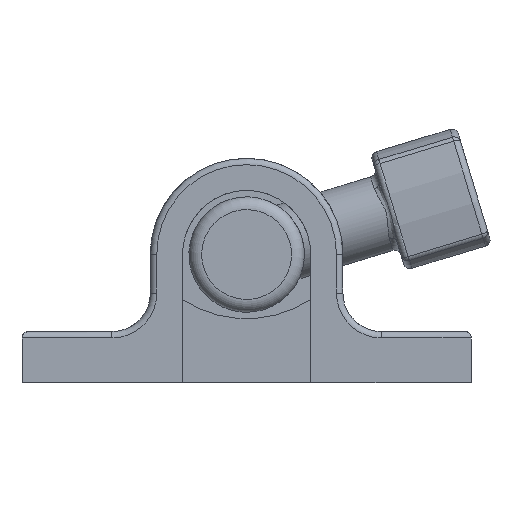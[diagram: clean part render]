
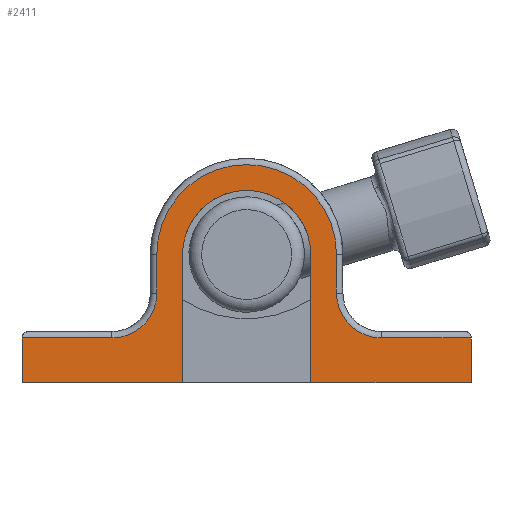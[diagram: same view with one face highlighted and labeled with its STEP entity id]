
A CAD part, left-side view. The second image highlights one B-rep face of the part: STEP entity #2411.
In plain terms, the highlighted planar face has unit normal (-1, 0, 0) as drawn and (0, 0, 1) by its records, which use the part's own axes.
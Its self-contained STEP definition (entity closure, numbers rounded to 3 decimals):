
#126=PLANE('',#2642);
#242=FACE_OUTER_BOUND('',#407,.T.);
#407=EDGE_LOOP('',(#1875,#1876,#1877,#1878,#1879,#1880,#1881,#1882,#1883,
#1884,#1885,#1886,#1887,#1888));
#539=LINE('',#3837,#693);
#565=LINE('',#3977,#719);
#566=LINE('',#3988,#720);
#568=LINE('',#3998,#722);
#569=LINE('',#4006,#723);
#576=LINE('',#4019,#730);
#586=LINE('',#4113,#740);
#588=LINE('',#4134,#742);
#590=LINE('',#4138,#744);
#591=LINE('',#4139,#745);
#693=VECTOR('',#2947,10.);
#719=VECTOR('',#3059,7.);
#720=VECTOR('',#3072,3.);
#722=VECTOR('',#3086,3.);
#723=VECTOR('',#3097,7.);
#730=VECTOR('',#3108,3.5);
#740=VECTOR('',#3150,12.5);
#742=VECTOR('',#3178,10.);
#744=VECTOR('',#3182,3.5);
#745=VECTOR('',#3183,12.5);
#868=CIRCLE('',#2596,3.5);
#872=CIRCLE('',#2602,7.);
#876=CIRCLE('',#2608,3.5);
#890=CIRCLE('',#2640,5.);
#1037=VERTEX_POINT('',#3834);
#1038=VERTEX_POINT('',#3836);
#1058=VERTEX_POINT('',#3926);
#1059=VERTEX_POINT('',#3930);
#1073=VERTEX_POINT('',#3975);
#1075=VERTEX_POINT('',#3980);
#1077=VERTEX_POINT('',#3986);
#1078=VERTEX_POINT('',#3991);
#1079=VERTEX_POINT('',#3996);
#1081=VERTEX_POINT('',#4001);
#1085=VERTEX_POINT('',#4018);
#1102=VERTEX_POINT('',#4129);
#1103=VERTEX_POINT('',#4133);
#1104=VERTEX_POINT('',#4137);
#1272=EDGE_CURVE('',#1037,#1038,#539,.T.);
#1328=EDGE_CURVE('',#1073,#1059,#565,.T.);
#1330=EDGE_CURVE('',#1075,#1073,#868,.T.);
#1333=EDGE_CURVE('',#1077,#1075,#566,.T.);
#1336=EDGE_CURVE('',#1078,#1077,#872,.T.);
#1339=EDGE_CURVE('',#1079,#1078,#568,.T.);
#1341=EDGE_CURVE('',#1081,#1079,#876,.T.);
#1343=EDGE_CURVE('',#1058,#1081,#569,.T.);
#1350=EDGE_CURVE('',#1059,#1085,#576,.T.);
#1370=EDGE_CURVE('',#1085,#1037,#586,.T.);
#1377=EDGE_CURVE('',#1038,#1102,#890,.T.);
#1379=EDGE_CURVE('',#1103,#1102,#588,.T.);
#1381=EDGE_CURVE('',#1058,#1104,#590,.T.);
#1382=EDGE_CURVE('',#1104,#1103,#591,.T.);
#1875=ORIENTED_EDGE('',*,*,#1343,.F.);
#1876=ORIENTED_EDGE('',*,*,#1381,.T.);
#1877=ORIENTED_EDGE('',*,*,#1382,.T.);
#1878=ORIENTED_EDGE('',*,*,#1379,.T.);
#1879=ORIENTED_EDGE('',*,*,#1377,.F.);
#1880=ORIENTED_EDGE('',*,*,#1272,.F.);
#1881=ORIENTED_EDGE('',*,*,#1370,.F.);
#1882=ORIENTED_EDGE('',*,*,#1350,.F.);
#1883=ORIENTED_EDGE('',*,*,#1328,.F.);
#1884=ORIENTED_EDGE('',*,*,#1330,.F.);
#1885=ORIENTED_EDGE('',*,*,#1333,.F.);
#1886=ORIENTED_EDGE('',*,*,#1336,.F.);
#1887=ORIENTED_EDGE('',*,*,#1339,.F.);
#1888=ORIENTED_EDGE('',*,*,#1341,.F.);
#2411=ADVANCED_FACE('',(#242),#126,.T.);
#2596=AXIS2_PLACEMENT_3D('',#3982,#3064,#3065);
#2602=AXIS2_PLACEMENT_3D('',#3993,#3078,#3079);
#2608=AXIS2_PLACEMENT_3D('',#4003,#3091,#3092);
#2640=AXIS2_PLACEMENT_3D('',#4130,#3173,#3174);
#2642=AXIS2_PLACEMENT_3D('',#4136,#3180,#3181);
#2947=DIRECTION('',(0.,1.,0.));
#3059=DIRECTION('',(1.,0.,0.));
#3064=DIRECTION('center_axis',(0.,0.,1.));
#3065=DIRECTION('ref_axis',(-0.707,-0.707,0.));
#3072=DIRECTION('',(0.,-1.,0.));
#3078=DIRECTION('center_axis',(0.,0.,-1.));
#3079=DIRECTION('ref_axis',(0.,1.,0.));
#3086=DIRECTION('',(0.,1.,0.));
#3091=DIRECTION('center_axis',(0.,0.,1.));
#3092=DIRECTION('ref_axis',(0.707,-0.707,0.));
#3097=DIRECTION('',(1.,0.,0.));
#3108=DIRECTION('',(0.,-1.,0.));
#3150=DIRECTION('',(-1.,0.,0.));
#3173=DIRECTION('center_axis',(0.,0.,1.));
#3174=DIRECTION('ref_axis',(0.,1.,0.));
#3178=DIRECTION('',(0.,1.,0.));
#3180=DIRECTION('center_axis',(0.,0.,1.));
#3181=DIRECTION('ref_axis',(1.,0.,0.));
#3182=DIRECTION('',(0.,-1.,0.));
#3183=DIRECTION('',(1.,0.,0.));
#3834=CARTESIAN_POINT('',(5.,0.,41.75));
#3836=CARTESIAN_POINT('',(5.,10.,41.75));
#3837=CARTESIAN_POINT('',(5.,2.959,41.75));
#3926=CARTESIAN_POINT('',(-17.5,3.5,41.75));
#3930=CARTESIAN_POINT('',(17.5,3.5,41.75));
#3975=CARTESIAN_POINT('',(10.5,3.5,41.75));
#3977=CARTESIAN_POINT('',(1.859,3.5,41.75));
#3980=CARTESIAN_POINT('',(7.,7.,41.75));
#3982=CARTESIAN_POINT('Origin',(10.5,7.,41.75));
#3986=CARTESIAN_POINT('',(7.,10.,41.75));
#3988=CARTESIAN_POINT('',(7.,7.959,41.75));
#3991=CARTESIAN_POINT('',(-7.,10.,41.75));
#3993=CARTESIAN_POINT('Origin',(0.,10.,41.75));
#3996=CARTESIAN_POINT('',(-7.,7.,41.75));
#3998=CARTESIAN_POINT('',(-7.,7.959,41.75));
#4001=CARTESIAN_POINT('',(-10.5,3.5,41.75));
#4003=CARTESIAN_POINT('Origin',(-10.5,7.,41.75));
#4006=CARTESIAN_POINT('',(-8.641,3.5,41.75));
#4018=CARTESIAN_POINT('',(17.5,0.,41.75));
#4019=CARTESIAN_POINT('',(17.5,4.,41.75));
#4113=CARTESIAN_POINT('',(17.5,0.,41.75));
#4129=CARTESIAN_POINT('',(-5.,10.,41.75));
#4130=CARTESIAN_POINT('Origin',(0.,10.,41.75));
#4133=CARTESIAN_POINT('',(-5.,0.,41.75));
#4134=CARTESIAN_POINT('',(-5.,2.959,41.75));
#4136=CARTESIAN_POINT('Origin',(-6.781,5.918,41.75));
#4137=CARTESIAN_POINT('',(-17.5,0.,41.75));
#4138=CARTESIAN_POINT('',(-17.5,4.,41.75));
#4139=CARTESIAN_POINT('',(-17.5,0.,41.75));
